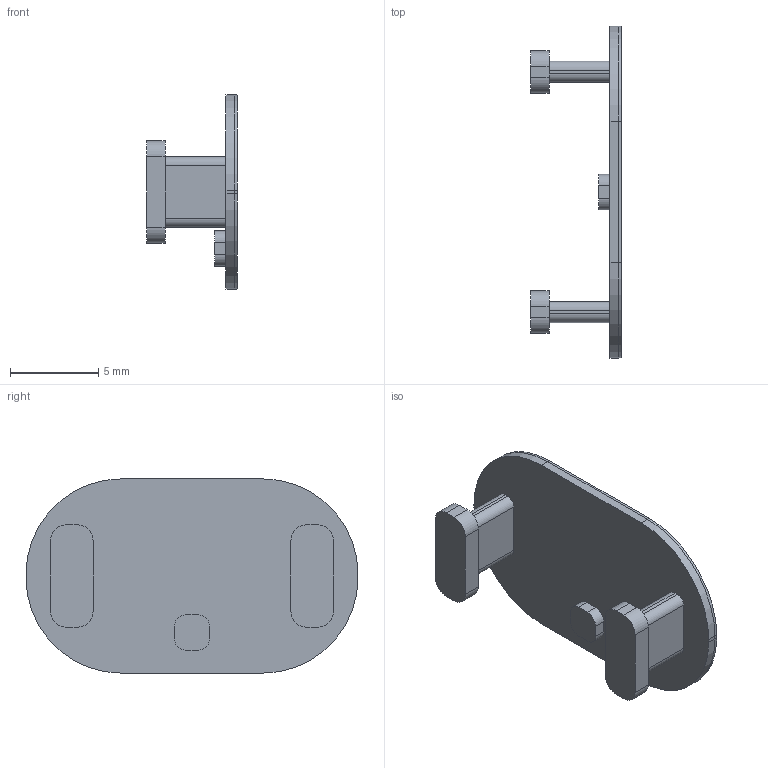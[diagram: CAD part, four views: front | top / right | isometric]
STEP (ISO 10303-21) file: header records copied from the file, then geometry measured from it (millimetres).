
FILE_DESCRIPTION(('Open CASCADE Model'),'2;1');
FILE_NAME('C27_08_Volume_Down_Rigid_Carrier','2026-09-09T13:54:18',( 'Author'),('Open CASCADE'),'Open CASCADE STEP processor 7.9', 'build123d','Unknown');
FILE_SCHEMA(('AUTOMOTIVE_DESIGN { 1 0 10303 214 1 1 1 1 }'));
Length unit declared in the file: millimetre
Products named in the file (1): C27_08_Volume_Down_Rigid_Carrier
Bounding box: 5.15 x 18.8 x 11 mm (x, y, z)
Volume: 179.9 mm3; surface area: 531.9 mm2
Topology: 1 solids, 1 shells, 63 faces, 160 edges, 104 vertices
Faces by surface type: plane 31, cylinder 28, torus 4
Entity records: 4075 total; most frequent: CARTESIAN_POINT 800, DIRECTION 636, LINE 364, VECTOR 364, ORIENTED_EDGE 320, PCURVE 320, DEFINITIONAL_REPRESENTATION 320, EDGE_CURVE 160
